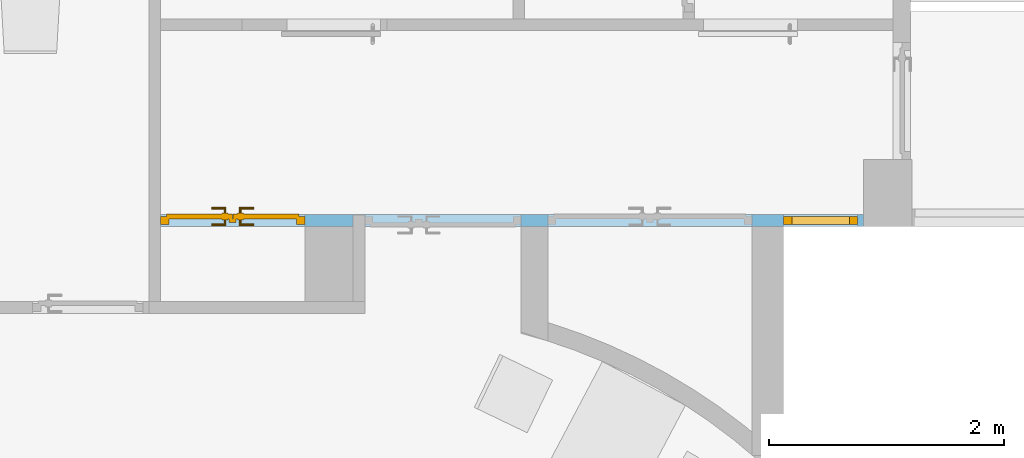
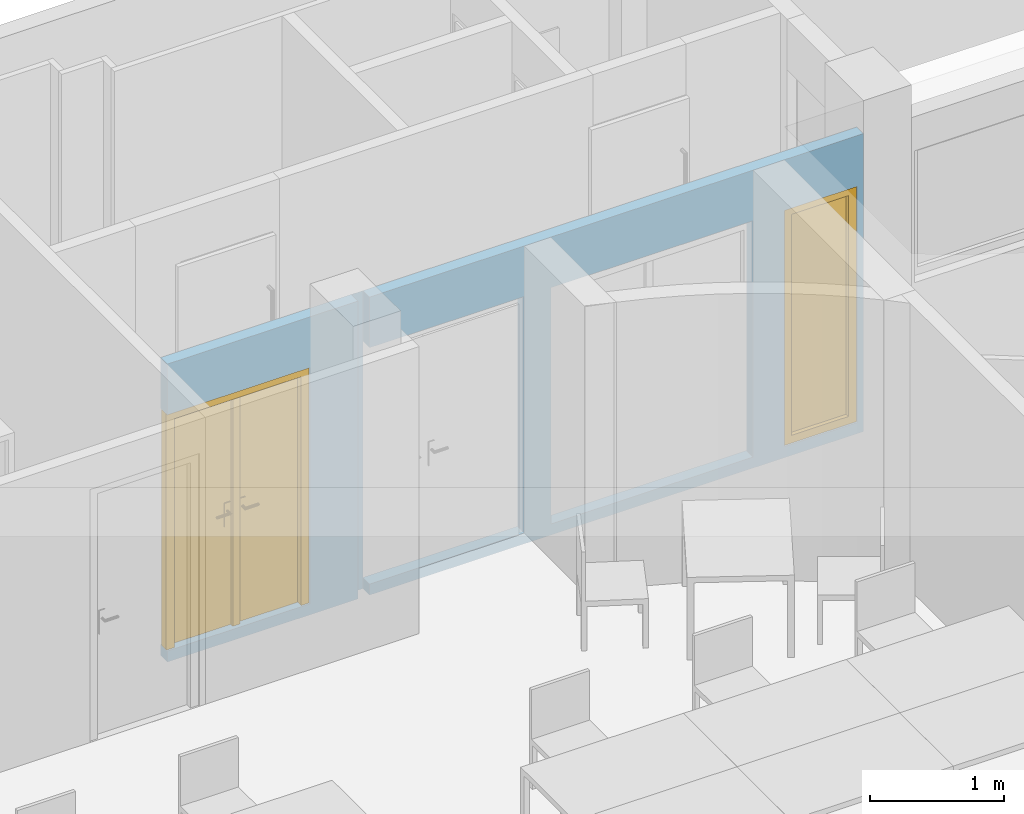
"""IFC4 building model written with IfcOpenShell, lengths in metres."""

from ifc_helpers import new_model, entity, si_unit, converted_unit, derived_unit, frame, origin, origin_with_axes, place, context, subcontext, project, spatial, polyline, outline, extrude, closed_shell, open_shell, faceted_brep, surface_model, source, transform, mapped, material, layer, layer_set, layer_usage, type_object, element, fill, save


model = new_model("IFC4")

# Units and contexts
model_context = context("Model", 3, precision=1e-05, world=origin())
body_context = subcontext(model_context, "Body", "Model", "MODEL_VIEW")
ifc_project = project(units=[si_unit("LENGTHUNIT", "METRE"), si_unit("AREAUNIT", "SQUARE_METRE"), si_unit("VOLUMEUNIT", "CUBIC_METRE"), si_unit("MASSUNIT", "GRAM", prefix="KILO"), converted_unit("PLANEANGLEUNIT", "DEGREE", entity("IfcPlaneAngleMeasure", 0.0174532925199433), si_unit("PLANEANGLEUNIT", "RADIAN"), dimensions=[0, 0, 0, 0, 0, 0, 0]), derived_unit("THERMALTRANSMITTANCEUNIT", [(si_unit("POWERUNIT", "WATT"), 1), (si_unit("THERMODYNAMICTEMPERATUREUNIT", "KELVIN"), -1), (si_unit("LENGTHUNIT", "METRE"), -2)]), derived_unit("VOLUMETRICFLOWRATEUNIT", [(si_unit("LENGTHUNIT", "METRE"), 3), (converted_unit("TIMEUNIT", "hour", entity("IfcTimeMeasure", 3600.0), si_unit("TIMEUNIT", "SECOND"), dimensions=[0, 0, 1, 0, 0, 0, 0]), -1), (si_unit("LENGTHUNIT", "METRE"), -1)])], contexts=[model_context])

# Building, storeys
building_placement = place(None, origin())
building = spatial("IfcBuilding", under=ifc_project, at=building_placement, Name="HABITATGE PLURIFAMILIAR", CompositionType="ELEMENT")
storey_1_placement = place(building_placement, frame((0.0, 0.0, 6.25)))
storey_1 = spatial("IfcBuildingStorey", under=building, at=storey_1_placement, Name="PLANTA PRIMERA", CompositionType="ELEMENT", Elevation=6.25)
storey_2_placement = place(storey_1_placement, frame((0.0, 0.0, 3.35)))
storey_2 = spatial("IfcBuildingStorey", under=storey_1, at=storey_2_placement, Name="NOU", CompositionType="PARTIAL")

# Wall, openings, doors
ifc_material = material()
ifc_layer = layer(ifc_material, 0.1)
ifc_layer_set = layer_set([ifc_layer])
ifc_layer_usage = layer_usage(ifc_layer_set, "AXIS2", "POSITIVE", 0.0)
wall_placement = place(storey_2_placement, frame((410.426984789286, 24.2594598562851, -3.45), z_axis=(0.0, 0.0, 1.0), x_axis=(-1.0, 0.0, 0.0)))
wall = element("IfcWall", 1, at=wall_placement, inside=storey_2, material=ifc_layer_usage, Name="Envans P1", context=body_context, shape_type="SweptSolid", body=[
    extrude(outline(polyline([(-5.99000001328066, -0.1), (0.0, -0.1), (0.0, 0.0), (-1.63999999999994, 0.0), (-1.63999999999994, -0.0977698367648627), (-1.74, -0.0977698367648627), (-1.74, 0.0), (-5.99000001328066, 0.0), (-5.99000001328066, -0.1)])), frame((5.99000001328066, 0.1, 0.0), z_axis=(0.0, 0.0, 1.0), x_axis=(1.0, 0.0, 0.0)), (0.0, 0.0, 1.0), 2.71),
])
opening_1_placement = place(wall_placement, frame((4.25000001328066, 0.1, 0.1), z_axis=(0.0, 0.0, 1.0), x_axis=(-1.0, 0.0, 0.0)))
element("IfcOpeningElement", 2, at=opening_1_placement, cuts=wall, Name="Vano de puerta P1", ObjectType="Opening", context=body_context, shape_type="SweptSolid", body=[
    extrude(outline(polyline([(0.0, 0.0), (1.33, 0.0), (1.33311274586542, 0.1), (0.0, 0.1), (0.0, 0.0)])), origin_with_axes(), (0.0, 0.0, 1.0), 2.15),
])
opening_2_placement = place(wall_placement, frame((5.99036691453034, 0.1, 0.1), z_axis=(0.0, -1.0, 0.0), x_axis=(0.0, 0.0, 1.0)))
opening_2 = element("IfcOpeningElement", 3, at=opening_2_placement, cuts=wall, Name="Vano de puerta P1", ObjectType="Opening", context=body_context, shape_type="SweptSolid", body=[
    extrude(outline(polyline([(2.15, 1.23), (2.15, 0.0), (0.0, 0.0), (0.0, 1.23), (2.15, 1.23)])), origin_with_axes(), (0.0, 0.0, 1.0), 0.1),
])
opening_3_placement = place(wall_placement, frame((0.679999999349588, 0.1, 0.1), z_axis=(0.0, -1.0, 0.0), x_axis=(0.0, 0.0, 1.0)))
opening_3 = element("IfcOpeningElement", 4, at=opening_3_placement, cuts=wall, Name="Vano de puerta P1", ObjectType="Opening", context=body_context, shape_type="SweptSolid", body=[
    extrude(outline(polyline([(2.15, 0.629999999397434), (2.15, 0.0), (0.0, 0.0), (0.0, 0.629999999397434), (2.15, 0.629999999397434)])), origin_with_axes(), (0.0, 0.0, 1.0), 0.1),
])
opening_4_placement = place(wall_placement, frame((2.69000001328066, 0.1, 0.1), z_axis=(0.0, -1.0, 0.0), x_axis=(0.0, 0.0, 1.0)))
element("IfcOpeningElement", 5, at=opening_4_placement, cuts=wall, Name="Vano de puerta P1", ObjectType="Opening", context=body_context, shape_type="SweptSolid", body=[
    extrude(outline(polyline([(2.15, 1.73999999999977), (2.15, 0.0), (0.0, 0.0), (0.0, 1.73999999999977), (2.15, 1.73999999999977)])), origin_with_axes(), (0.0, 0.0, 1.0), 0.1),
])
shared_shape_1 = source(origin_with_axes(), body_context, "Body", "Brep", [
    faceted_brep([(0.0, 0.07, 2.15), (0.0, 0.07, 0.0), (0.07, 0.07, 0.0), (0.07, 0.07, 2.15), (0.0, 0.0, 0.0), (0.0, 0.0, 2.15), (0.07, 0.0, 2.15), (0.07, 0.0, 0.0)], [[[0, 1, 2, 3]], [[4, 5, 6, 7]], [[1, 0, 5, 4]], [[2, 1, 4, 7]], [[3, 2, 7, 6]], [[0, 3, 6, 5]]], orient=[[False], [False], [False], [False], [False], [False]]),
    faceted_brep([(1.16, 0.07, 2.15), (1.16, 0.07, 0.0), (1.23, 0.07, 0.0), (1.23, 0.07, 2.15), (1.16, 0.0, 0.0), (1.16, 0.0, 2.15), (1.23, 0.0, 2.15), (1.23, 0.0, 0.0)], [[[0, 1, 2, 3]], [[4, 5, 6, 7]], [[1, 0, 5, 4]], [[2, 1, 4, 7]], [[3, 2, 7, 6]], [[0, 3, 6, 5]]], orient=[[False], [False], [False], [False], [False], [False]]),
    faceted_brep([(0.07, 0.07, 2.15), (0.07, 0.07, 2.08), (1.16, 0.07, 2.08), (1.16, 0.07, 2.15), (0.07, 0.0, 2.08), (0.07, 0.0, 2.15), (1.16, 0.0, 2.15), (1.16, 0.0, 2.08)], [[[0, 1, 2, 3]], [[4, 5, 6, 7]], [[1, 0, 5, 4]], [[2, 1, 4, 7]], [[3, 2, 7, 6]], [[0, 3, 6, 5]]], orient=[[False], [False], [False], [False], [False], [False]]),
    faceted_brep([(0.05, 0.09, 2.1), (0.05, 0.09, 0.0), (0.6145, 0.09, 0.0), (0.6145, 0.09, 2.1), (0.05, 0.05, 0.0), (0.05, 0.05, 2.1), (0.6145, 0.05, 2.1), (0.6145, 0.05, 0.0)], [[[0, 1, 2, 3]], [[4, 5, 6, 7]], [[1, 0, 5, 4]], [[2, 1, 4, 7]], [[3, 2, 7, 6]], [[0, 3, 6, 5]]], orient=[[False], [False], [False], [False], [False], [False]]),
    faceted_brep([(0.5845, 0.05, 2.08), (0.5845, 0.05, 0.0), (0.6445, 0.05, 0.0), (0.6445, 0.05, 2.08), (0.5845, 0.02, 0.0), (0.5845, 0.02, 2.08), (0.6445, 0.02, 2.08), (0.6445, 0.02, 0.0)], [[[0, 1, 2, 3]], [[4, 5, 6, 7]], [[1, 0, 5, 4]], [[2, 1, 4, 7]], [[3, 2, 7, 6]], [[0, 3, 6, 5]]], orient=[[False], [False], [False], [False], [False], [False]]),
    faceted_brep([(0.5245, 0.05, 1.125), (0.5245, 0.05, 0.91), (0.5745, 0.05, 0.91), (0.5745, 0.05, 1.125), (0.5245, 0.04, 0.91), (0.5245, 0.04, 1.125), (0.5745, 0.04, 1.125), (0.5745, 0.04, 0.91)], [[[0, 1, 2, 3]], [[4, 5, 6, 7]], [[1, 0, 5, 4]], [[2, 1, 4, 7]], [[3, 2, 7, 6]], [[0, 3, 6, 5]]], orient=[[False], [False], [False], [False], [False], [False]]),
    faceted_brep([(0.5495, 0.04, 1.06), (0.5445, 0.04, 1.05866025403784), (0.540839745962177, 0.04, 1.055), (0.5395, 0.04, 1.05), (0.540839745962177, 0.04, 1.045), (0.5445, 0.04, 1.04133974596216), (0.5495, 0.04, 1.04), (0.5545, 0.04, 1.04133974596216), (0.558160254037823, 0.04, 1.045), (0.5595, 0.04, 1.05), (0.558160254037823, 0.04, 1.055), (0.5545, 0.04, 1.05866025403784), (0.5545, -0.005, 1.05866025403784), (0.5495, 0.0, 1.06), (0.558160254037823, -0.00866025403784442, 1.055), (0.5595, -0.01, 1.05), (0.558160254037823, -0.00866025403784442, 1.045), (0.5545, -0.005, 1.04133974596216), (0.5495, 0.0, 1.04), (0.5445, 0.005, 1.04133974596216), (0.540839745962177, 0.00866025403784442, 1.045), (0.5395, 0.01, 1.05), (0.540839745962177, 0.00866025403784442, 1.055), (0.5445, 0.005, 1.05866025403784), (0.4345, 0.0, 1.06), (0.4345, -0.005, 1.05866025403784), (0.4345, -0.00866025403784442, 1.055), (0.4345, -0.01, 1.05), (0.4345, -0.00866025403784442, 1.045), (0.4345, -0.005, 1.04133974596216), (0.4345, 0.0, 1.04), (0.4345, 0.005, 1.04133974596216), (0.4345, 0.00866025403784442, 1.045), (0.4345, 0.01, 1.05), (0.4345, 0.00866025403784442, 1.055), (0.4345, 0.005, 1.05866025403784)], [[[0, 1, 2, 3, 4, 5, 6, 7, 8, 9, 10, 11]], [[0, 11, 12, 13]], [[11, 10, 14, 12]], [[10, 9, 15, 14]], [[9, 8, 16, 15]], [[8, 7, 17, 16]], [[7, 6, 18, 17]], [[6, 5, 19, 18]], [[5, 4, 20, 19]], [[4, 3, 21, 20]], [[3, 2, 22, 21]], [[2, 1, 23, 22]], [[1, 0, 13, 23]], [[24, 25, 26, 27, 28, 29, 30, 31, 32, 33, 34, 35]], [[13, 12, 25, 24]], [[12, 14, 26, 25]], [[14, 15, 27, 26]], [[15, 16, 28, 27]], [[16, 17, 29, 28]], [[17, 18, 30, 29]], [[18, 19, 31, 30]], [[19, 20, 32, 31]], [[20, 21, 33, 32]], [[21, 22, 34, 33]], [[22, 23, 35, 34]], [[23, 13, 24, 35]]], orient=[[False], [False], [False], [False], [False], [False], [False], [False], [False], [False], [False], [False], [False], [False], [False], [False], [False], [False], [False], [False], [False], [False], [False], [False], [False], [False]]),
    faceted_brep([(0.5245, 0.09, 1.125), (0.5745, 0.09, 1.125), (0.5745, 0.09, 0.91), (0.5245, 0.09, 0.91), (0.5245, 0.1, 0.91), (0.5745, 0.1, 0.91), (0.5745, 0.1, 1.125), (0.5245, 0.1, 1.125)], [[[0, 1, 2, 3]], [[4, 5, 6, 7]], [[3, 4, 7, 0]], [[2, 5, 4, 3]], [[1, 6, 5, 2]], [[0, 7, 6, 1]]], orient=[[False], [False], [False], [False], [False], [False]]),
    faceted_brep([(0.5495, 0.1, 1.06), (0.5545, 0.1, 1.05866025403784), (0.558160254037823, 0.1, 1.055), (0.5595, 0.1, 1.05), (0.558160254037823, 0.1, 1.045), (0.5545, 0.1, 1.04133974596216), (0.5495, 0.1, 1.04), (0.5445, 0.1, 1.04133974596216), (0.540839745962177, 0.1, 1.045), (0.5395, 0.1, 1.05), (0.540839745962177, 0.1, 1.055), (0.5445, 0.1, 1.05866025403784), (0.5495, 0.14, 1.06), (0.5545, 0.145, 1.05866025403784), (0.558160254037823, 0.148660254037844, 1.055), (0.5595, 0.15, 1.05), (0.558160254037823, 0.148660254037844, 1.045), (0.5545, 0.145, 1.04133974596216), (0.5495, 0.14, 1.04), (0.5445, 0.135, 1.04133974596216), (0.540839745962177, 0.131339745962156, 1.045), (0.5395, 0.13, 1.05), (0.540839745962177, 0.131339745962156, 1.055), (0.5445, 0.135, 1.05866025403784), (0.4345, 0.14, 1.06), (0.4345, 0.135, 1.05866025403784), (0.4345, 0.131339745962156, 1.055), (0.4345, 0.13, 1.05), (0.4345, 0.131339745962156, 1.045), (0.4345, 0.135, 1.04133974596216), (0.4345, 0.14, 1.04), (0.4345, 0.145, 1.04133974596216), (0.4345, 0.148660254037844, 1.045), (0.4345, 0.15, 1.05), (0.4345, 0.148660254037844, 1.055), (0.4345, 0.145, 1.05866025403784)], [[[0, 1, 2, 3, 4, 5, 6, 7, 8, 9, 10, 11]], [[0, 12, 13, 1]], [[1, 13, 14, 2]], [[2, 14, 15, 3]], [[3, 15, 16, 4]], [[4, 16, 17, 5]], [[5, 17, 18, 6]], [[6, 18, 19, 7]], [[7, 19, 20, 8]], [[8, 20, 21, 9]], [[9, 21, 22, 10]], [[10, 22, 23, 11]], [[11, 23, 12, 0]], [[24, 25, 26, 27, 28, 29, 30, 31, 32, 33, 34, 35]], [[12, 24, 35, 13]], [[13, 35, 34, 14]], [[14, 34, 33, 15]], [[15, 33, 32, 16]], [[16, 32, 31, 17]], [[17, 31, 30, 18]], [[18, 30, 29, 19]], [[19, 29, 28, 20]], [[20, 28, 27, 21]], [[21, 27, 26, 22]], [[22, 26, 25, 23]], [[23, 25, 24, 12]]], orient=[[False], [False], [False], [False], [False], [False], [False], [False], [False], [False], [False], [False], [False], [False], [False], [False], [False], [False], [False], [False], [False], [False], [False], [False], [False], [False]]),
    faceted_brep([(0.6155, 0.09, 2.1), (0.6155, 0.09, 0.0), (1.18, 0.09, 0.0), (1.18, 0.09, 2.1), (0.6155, 0.05, 0.0), (0.6155, 0.05, 2.1), (1.18, 0.05, 2.1), (1.18, 0.05, 0.0)], [[[0, 1, 2, 3]], [[4, 5, 6, 7]], [[1, 0, 5, 4]], [[2, 1, 4, 7]], [[3, 2, 7, 6]], [[0, 3, 6, 5]]], orient=[[False], [False], [False], [False], [False], [False]]),
    faceted_brep([(0.6555, 0.05, 1.125), (0.6555, 0.05, 0.91), (0.7055, 0.05, 0.91), (0.7055, 0.05, 1.125), (0.6555, 0.04, 0.91), (0.6555, 0.04, 1.125), (0.7055, 0.04, 1.125), (0.7055, 0.04, 0.91)], [[[0, 1, 2, 3]], [[4, 5, 6, 7]], [[1, 0, 5, 4]], [[2, 1, 4, 7]], [[3, 2, 7, 6]], [[0, 3, 6, 5]]], orient=[[False], [False], [False], [False], [False], [False]]),
    faceted_brep([(0.6805, 0.04, 1.06), (0.6755, 0.04, 1.05866025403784), (0.671839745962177, 0.04, 1.055), (0.6705, 0.04, 1.05), (0.671839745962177, 0.04, 1.045), (0.6755, 0.04, 1.04133974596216), (0.6805, 0.04, 1.04), (0.6855, 0.04, 1.04133974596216), (0.689160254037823, 0.04, 1.045), (0.6905, 0.04, 1.05), (0.689160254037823, 0.04, 1.055), (0.6855, 0.04, 1.05866025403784), (0.6805, 0.0, 1.06), (0.6755, -0.005, 1.05866025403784), (0.671839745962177, -0.00866025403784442, 1.055), (0.6705, -0.01, 1.05), (0.671839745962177, -0.00866025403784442, 1.045), (0.6755, -0.005, 1.04133974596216), (0.6805, 0.0, 1.04), (0.6855, 0.005, 1.04133974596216), (0.689160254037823, 0.00866025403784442, 1.045), (0.6905, 0.01, 1.05), (0.689160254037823, 0.00866025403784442, 1.055), (0.6855, 0.005, 1.05866025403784), (0.7955, 0.0, 1.06), (0.7955, 0.005, 1.05866025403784), (0.7955, 0.00866025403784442, 1.055), (0.7955, 0.01, 1.05), (0.7955, 0.00866025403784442, 1.045), (0.7955, 0.005, 1.04133974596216), (0.7955, 0.0, 1.04), (0.7955, -0.005, 1.04133974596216), (0.7955, -0.00866025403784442, 1.045), (0.7955, -0.01, 1.05), (0.7955, -0.00866025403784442, 1.055), (0.7955, -0.005, 1.05866025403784)], [[[0, 1, 2, 3, 4, 5, 6, 7, 8, 9, 10, 11]], [[0, 12, 13, 1]], [[1, 13, 14, 2]], [[2, 14, 15, 3]], [[3, 15, 16, 4]], [[4, 16, 17, 5]], [[5, 17, 18, 6]], [[6, 18, 19, 7]], [[7, 19, 20, 8]], [[8, 20, 21, 9]], [[9, 21, 22, 10]], [[10, 22, 23, 11]], [[11, 23, 12, 0]], [[24, 25, 26, 27, 28, 29, 30, 31, 32, 33, 34, 35]], [[12, 24, 35, 13]], [[13, 35, 34, 14]], [[14, 34, 33, 15]], [[15, 33, 32, 16]], [[16, 32, 31, 17]], [[17, 31, 30, 18]], [[18, 30, 29, 19]], [[19, 29, 28, 20]], [[20, 28, 27, 21]], [[21, 27, 26, 22]], [[22, 26, 25, 23]], [[23, 25, 24, 12]]], orient=[[False], [False], [False], [False], [False], [False], [False], [False], [False], [False], [False], [False], [False], [False], [False], [False], [False], [False], [False], [False], [False], [False], [False], [False], [False], [False]]),
    faceted_brep([(0.6555, 0.09, 1.125), (0.7055, 0.09, 1.125), (0.7055, 0.09, 0.91), (0.6555, 0.09, 0.91), (0.6555, 0.1, 0.91), (0.7055, 0.1, 0.91), (0.7055, 0.1, 1.125), (0.6555, 0.1, 1.125)], [[[0, 1, 2, 3]], [[4, 5, 6, 7]], [[3, 4, 7, 0]], [[2, 5, 4, 3]], [[1, 6, 5, 2]], [[0, 7, 6, 1]]], orient=[[False], [False], [False], [False], [False], [False]]),
    faceted_brep([(0.6805, 0.1, 1.06), (0.6855, 0.1, 1.05866025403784), (0.689160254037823, 0.1, 1.055), (0.6905, 0.1, 1.05), (0.689160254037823, 0.1, 1.045), (0.6855, 0.1, 1.04133974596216), (0.6805, 0.1, 1.04), (0.6755, 0.1, 1.04133974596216), (0.671839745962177, 0.1, 1.045), (0.6705, 0.1, 1.05), (0.671839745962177, 0.1, 1.055), (0.6755, 0.1, 1.05866025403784), (0.6755, 0.145, 1.05866025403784), (0.6805, 0.14, 1.06), (0.671839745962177, 0.148660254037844, 1.055), (0.6705, 0.15, 1.05), (0.671839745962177, 0.148660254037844, 1.045), (0.6755, 0.145, 1.04133974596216), (0.6805, 0.14, 1.04), (0.6855, 0.135, 1.04133974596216), (0.689160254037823, 0.131339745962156, 1.045), (0.6905, 0.13, 1.05), (0.689160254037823, 0.131339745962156, 1.055), (0.6855, 0.135, 1.05866025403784), (0.7955, 0.14, 1.06), (0.7955, 0.145, 1.05866025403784), (0.7955, 0.148660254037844, 1.055), (0.7955, 0.15, 1.05), (0.7955, 0.148660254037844, 1.045), (0.7955, 0.145, 1.04133974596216), (0.7955, 0.14, 1.04), (0.7955, 0.135, 1.04133974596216), (0.7955, 0.131339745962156, 1.045), (0.7955, 0.13, 1.05), (0.7955, 0.131339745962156, 1.055), (0.7955, 0.135, 1.05866025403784)], [[[0, 1, 2, 3, 4, 5, 6, 7, 8, 9, 10, 11]], [[0, 11, 12, 13]], [[11, 10, 14, 12]], [[10, 9, 15, 14]], [[9, 8, 16, 15]], [[8, 7, 17, 16]], [[7, 6, 18, 17]], [[6, 5, 19, 18]], [[5, 4, 20, 19]], [[4, 3, 21, 20]], [[3, 2, 22, 21]], [[2, 1, 23, 22]], [[1, 0, 13, 23]], [[24, 25, 26, 27, 28, 29, 30, 31, 32, 33, 34, 35]], [[13, 12, 25, 24]], [[12, 14, 26, 25]], [[14, 15, 27, 26]], [[15, 16, 28, 27]], [[16, 17, 29, 28]], [[17, 18, 30, 29]], [[18, 19, 31, 30]], [[19, 20, 32, 31]], [[20, 21, 33, 32]], [[21, 22, 34, 33]], [[22, 23, 35, 34]], [[23, 13, 24, 35]]], orient=[[False], [False], [False], [False], [False], [False], [False], [False], [False], [False], [False], [False], [False], [False], [False], [False], [False], [False], [False], [False], [False], [False], [False], [False], [False], [False]]),
])
door_1_placement = place(opening_2_placement, frame((0.0, 0.0, 0.015), z_axis=(1.0, 0.0, 0.0), x_axis=(0.0, 1.0, 0.0)))
door_1 = element("IfcDoor", 6, at=door_1_placement, inside=storey_2, Name="Porta P1", OperationType="USERDEFINED", OverallHeight=2.15, OverallWidth=1.23, PredefinedType="DOOR", context=body_context, shape_type="MappedRepresentation", body=[
    mapped(shared_shape_1, transform((0.0, 0.0, 0.0), x_axis=(1.0, 0.0, 0.0), y_axis=(0.0, 1.0, 0.0), z_axis=(0.0, 0.0, 1.0), scale=1.0)),
])
fill(opening_2, door_1)
door_type = type_object("IfcDoorType", Name="Porta P1", OperationType="NOTDEFINED", ParameterTakesPrecedence=False, PredefinedType="DOOR")
shared_shape_2 = source(origin_with_axes(), body_context, "Body", "SurfaceModel", [
    surface_model("IfcShellBasedSurfaceModel", [(0.0, 0.0700000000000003, 2.15), (0.0, 0.07, 0.0), (0.07, 0.07, 0.0), (0.07, 0.0700000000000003, 2.15), (0.0, 0.0, 0.0), (0.0, 0.0, 2.15), (0.07, 0.0, 2.15), (0.07, 0.0, 0.0)], [closed_shell([[[0, 1, 2, 3]], [[4, 5, 6, 7]], [[1, 0, 5, 4]], [[2, 1, 4, 7]], [[3, 2, 7, 6]], [[0, 3, 6, 5]]], orient=[[False], [False], [False], [False], [False], [False]])]),
    surface_model("IfcShellBasedSurfaceModel", [(0.559999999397, 0.0700000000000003, 2.15), (0.559999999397, 0.07, 0.0), (0.629999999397, 0.07, 0.0), (0.629999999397, 0.0700000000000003, 2.15), (0.559999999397, 0.0, 0.0), (0.559999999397, 0.0, 2.15), (0.629999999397, 0.0, 2.15), (0.629999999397, 0.0, 0.0)], [closed_shell([[[0, 1, 2, 3]], [[4, 5, 6, 7]], [[1, 0, 5, 4]], [[2, 1, 4, 7]], [[3, 2, 7, 6]], [[0, 3, 6, 5]]], orient=[[False], [False], [False], [False], [False], [False]])]),
    surface_model("IfcShellBasedSurfaceModel", [(0.07, 0.07, 0.07), (0.07, 0.07, 0.0), (0.559999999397, 0.07, 0.0), (0.559999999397, 0.07, 0.07), (0.07, 0.0, 0.0), (0.07, 0.0, 0.07), (0.559999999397, 0.0, 0.07), (0.559999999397, 0.0, 0.0)], [closed_shell([[[0, 1, 2, 3]], [[4, 5, 6, 7]], [[1, 0, 5, 4]], [[2, 1, 4, 7]], [[3, 2, 7, 6]], [[0, 3, 6, 5]]], orient=[[False], [False], [False], [False], [False], [False]])]),
    surface_model("IfcShellBasedSurfaceModel", [(0.07, 0.0700000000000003, 2.15), (0.07, 0.0700000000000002, 2.08), (0.559999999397, 0.0700000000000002, 2.08), (0.559999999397, 0.0700000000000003, 2.15), (0.07, 0.0, 2.08), (0.07, 0.0, 2.15), (0.559999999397, 0.0, 2.15), (0.559999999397, 0.0, 2.08)], [closed_shell([[[0, 1, 2, 3]], [[4, 5, 6, 7]], [[1, 0, 5, 4]], [[2, 1, 4, 7]], [[3, 2, 7, 6]], [[0, 3, 6, 5]]], orient=[[False], [False], [False], [False], [False], [False]])]),
    surface_model("IfcShellBasedSurfaceModel", [(0.07, 0.035, 0.07), (0.559999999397, 0.035, 0.07), (0.559999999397, 0.0350000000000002, 2.08), (0.07, 0.0350000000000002, 2.08)], [open_shell([[[0, 1, 2, 3]]], orient=[[False]])]),
])
door_2_placement = place(opening_3_placement, frame((0.0, 0.629999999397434, 0.015), z_axis=(1.0, 0.0, 0.0), x_axis=(0.0, -1.00000000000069, 0.0)))
door_2 = element("IfcDoor", 7, at=door_2_placement, inside=storey_2, type_object=door_type, Name="Porta P1", OverallHeight=2.15, OverallWidth=0.63, context=body_context, shape_type="MappedRepresentation", body=[
    mapped(shared_shape_2, transform((0.0, 0.0, 0.0), x_axis=(1.0, 0.0, 0.0), y_axis=(0.0, -1.0, 0.0), z_axis=(0.0, 0.0, 1.0), scale=1.00000000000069)),
])
fill(opening_3, door_2)

save(model, "model.ifc")
